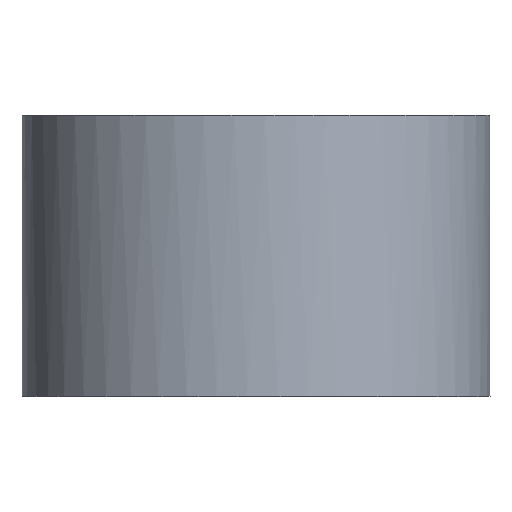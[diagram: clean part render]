
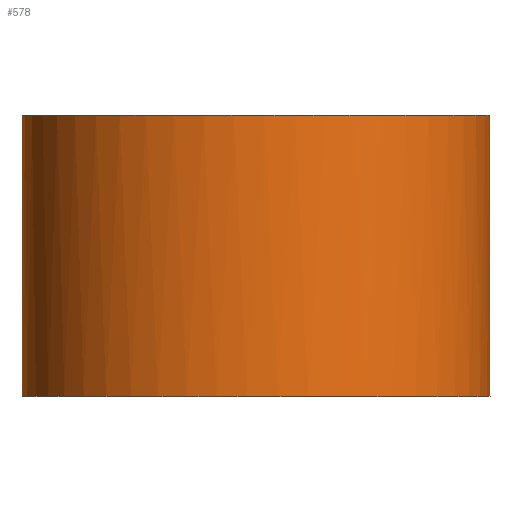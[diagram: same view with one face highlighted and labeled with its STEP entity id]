
A CAD part, top view. The second image highlights one B-rep face of the part: STEP entity #578.
In plain terms, the highlighted free-form (B-spline) face has degree [1, 2] with [2, 7] control points.
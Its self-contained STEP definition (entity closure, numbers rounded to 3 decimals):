
#15=(
BOUNDED_SURFACE()
B_SPLINE_SURFACE(1,2,((#950,#951,#952,#953,#954,#955,#956),(#957,#958,#959,
#960,#961,#962,#963)),.UNSPECIFIED.,.F.,.F.,.F.)
B_SPLINE_SURFACE_WITH_KNOTS((2,2),(3,2,2,3),(-0.6,0.6),(-3.902,
-2.348,-0.794,0.761),.UNSPECIFIED.)
GEOMETRIC_REPRESENTATION_ITEM()
RATIONAL_B_SPLINE_SURFACE(((1.,0.713,1.,0.713,1.,
0.713,1.),(1.,0.713,1.,0.713,1.,0.713,
1.)))
REPRESENTATION_ITEM('')
SURFACE()
);
#32=ELLIPSE('',#605,17.5,15.6);
#33=ELLIPSE('',#609,17.5,15.6);
#61=FACE_OUTER_BOUND('',#97,.T.);
#97=EDGE_LOOP('',(#488,#489,#490,#491));
#166=LINE('',#964,#234);
#167=LINE('',#965,#235);
#234=VECTOR('',#784,10.);
#235=VECTOR('',#785,10.);
#243=VERTEX_POINT('',#809);
#244=VERTEX_POINT('',#811);
#258=VERTEX_POINT('',#844);
#259=VERTEX_POINT('',#846);
#296=EDGE_CURVE('',#243,#244,#32,.T.);
#313=EDGE_CURVE('',#258,#259,#33,.T.);
#364=EDGE_CURVE('',#259,#243,#166,.T.);
#365=EDGE_CURVE('',#244,#258,#167,.T.);
#488=ORIENTED_EDGE('',*,*,#364,.F.);
#489=ORIENTED_EDGE('',*,*,#313,.F.);
#490=ORIENTED_EDGE('',*,*,#365,.F.);
#491=ORIENTED_EDGE('',*,*,#296,.F.);
#578=ADVANCED_FACE('',(#61),#15,.F.);
#605=AXIS2_PLACEMENT_3D('',#812,#656,#657);
#609=AXIS2_PLACEMENT_3D('',#847,#680,#681);
#656=DIRECTION('center_axis',(0.,-1.,0.));
#657=DIRECTION('ref_axis',(1.,0.,0.));
#680=DIRECTION('center_axis',(0.,1.,0.));
#681=DIRECTION('ref_axis',(1.,0.,0.));
#784=DIRECTION('',(0.,-1.,0.));
#785=DIRECTION('',(0.,1.,0.));
#809=CARTESIAN_POINT('',(12.678,-10.5,9.847));
#811=CARTESIAN_POINT('',(-12.678,-10.5,9.847));
#812=CARTESIAN_POINT('Origin',(0.,-10.5,20.6));
#844=CARTESIAN_POINT('',(-12.678,10.5,9.847));
#846=CARTESIAN_POINT('',(12.678,10.5,9.847));
#847=CARTESIAN_POINT('Origin',(0.,10.5,20.6));
#950=CARTESIAN_POINT('Ctrl Pts',(-12.678,-10.5,9.847));
#951=CARTESIAN_POINT('Ctrl Pts',(-24.543,-10.5,20.963));
#952=CARTESIAN_POINT('Ctrl Pts',(-12.271,-10.5,31.722));
#953=CARTESIAN_POINT('Ctrl Pts',(0.,-10.5,42.481));
#954=CARTESIAN_POINT('Ctrl Pts',(12.271,-10.5,31.722));
#955=CARTESIAN_POINT('Ctrl Pts',(24.543,-10.5,20.963));
#956=CARTESIAN_POINT('Ctrl Pts',(12.678,-10.5,9.847));
#957=CARTESIAN_POINT('Ctrl Pts',(-12.678,10.5,9.847));
#958=CARTESIAN_POINT('Ctrl Pts',(-24.543,10.5,20.963));
#959=CARTESIAN_POINT('Ctrl Pts',(-12.271,10.5,31.722));
#960=CARTESIAN_POINT('Ctrl Pts',(0.,10.5,42.481));
#961=CARTESIAN_POINT('Ctrl Pts',(12.271,10.5,31.722));
#962=CARTESIAN_POINT('Ctrl Pts',(24.543,10.5,20.963));
#963=CARTESIAN_POINT('Ctrl Pts',(12.678,10.5,9.847));
#964=CARTESIAN_POINT('',(12.678,0.,9.847));
#965=CARTESIAN_POINT('',(-12.678,0.,9.847));
